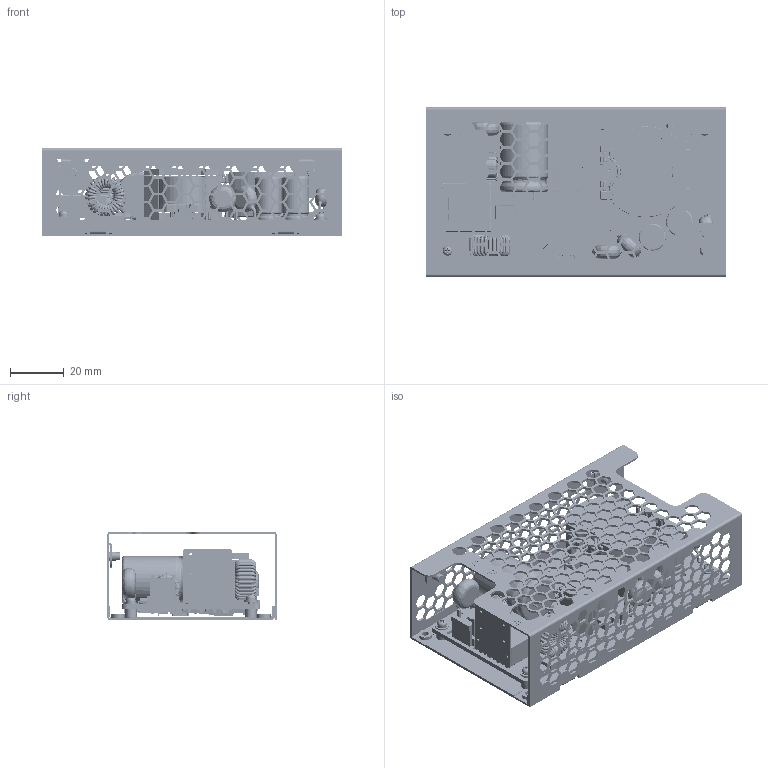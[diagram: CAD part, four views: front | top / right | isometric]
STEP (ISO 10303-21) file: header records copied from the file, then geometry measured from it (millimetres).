
FILE_DESCRIPTION (( 'STEP AP203' ), '1' );
FILE_NAME ('MEP-200AXXJ CNA 2023.STEP', '2024-07-12T09:22:29', ( '' ), ( '' ), 'SwSTEP 2.0', 'SolidWorks 2020', '' );
FILE_SCHEMA (( 'CONFIG_CONTROL_DESIGN' ));
Length unit declared in the file: millimetre
Products named in the file (220): D131; R111; irlsop; NTC131; C105; R58; R52; C43; R49; C41; irbd-msb30jl; MEP-200X2R0C0; mcx-18_1x8_6x0_8p15; Insulator for case; STANDOFF_M3X4 NO.3; R100; R18; STANDOFF_M3X4 NO.1; R11; 0805r; MEP-200X2; irsot89; R1; ZD31; R139; D32; Open CASCADE STEP translator 6.8 1.101.1.3; C16; C121; M3_FOR_FIX_PCB; C47; R19; Board; R105; FB33; R143; CX1; irsic16; FB31; Open CASCADE STEP translator 6.8 1.101.1.2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
Assembly tree (340 placements, depth 6):
  MEP-200AXXJ CNA 2023
    Case Down Asm
      Case Down
      STANDOFF_M3X4 NO.1
      STANDOFF_M3X4 NO.2
      STANDOFF_M3X4 NO.3
      STANDOFF_M3X4 NO.4
    Case Up
    3105455800_M3X5  x2
    MEP-200X2
      MEP-200X2R0C0
        Board
        CY1
          mo10x5x06p10ai
        R53
          0603r
        R140
          0603r
        IC132
          irso8
        R136
          0603r
        R57
          0603r
        R55
          0603r
        Q37
          irs23l_p
        FB35
          0805r
        FB34
          0805r
        FB33
          0805r
        D131
          irsod323
        C55
          0603c
        C48
          1206c
        C47
          1206c
        C134
          0603c
        C100
          0805c
        R100
          0805r
        TVS132
          irsma-214ac
        R16
          1206r
        R17
          1206r
        Q102
          irTDSON8-nmosfet
        Q101
          irTDSON8-nmosfet
        R111
          0603r
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Bounding box: 111.2 x 62.8 x 32.5 mm (x, y, z)
Volume: 55440.2 mm3; surface area: 90395.2 mm2
Topology: 194 solids, 195 shells, 8880 faces, 23604 edges, 14705 vertices
Faces by surface type: plane 5509, cylinder 2391, bspline 791, torus 85, sphere 57, cone 47
Full cylindrical faces by diameter (mm): 0.443 x2, 0.5 x45, 0.55 x4, 0.6 x17, 0.65 x2, 0.7 x2, 0.8 x24, 0.825 x1, 0.9 x10, 1 x112, 1.1 x2, 1.2 x5, 1.4 x2, 1.7 x10, 1.8 x2, 2 x4, 2.5 x8, 3 x4, 3.2 x2, 3.5 x10, 3.8 x4, 4 x4, 4.191 x4, 5 x11, 6.943 x2, 7 x1, 7.094 x2, 7.749 x1, 8 x1, 11.5 x1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
Entity records: 208131 total; most frequent: CARTESIAN_POINT 48273, ORIENTED_EDGE 27624, DIRECTION 26519, EDGE_CURVE 13812, VECTOR 10773, LINE 10773, VERTEX_POINT 9154, AXIS2_PLACEMENT_3D 7873
